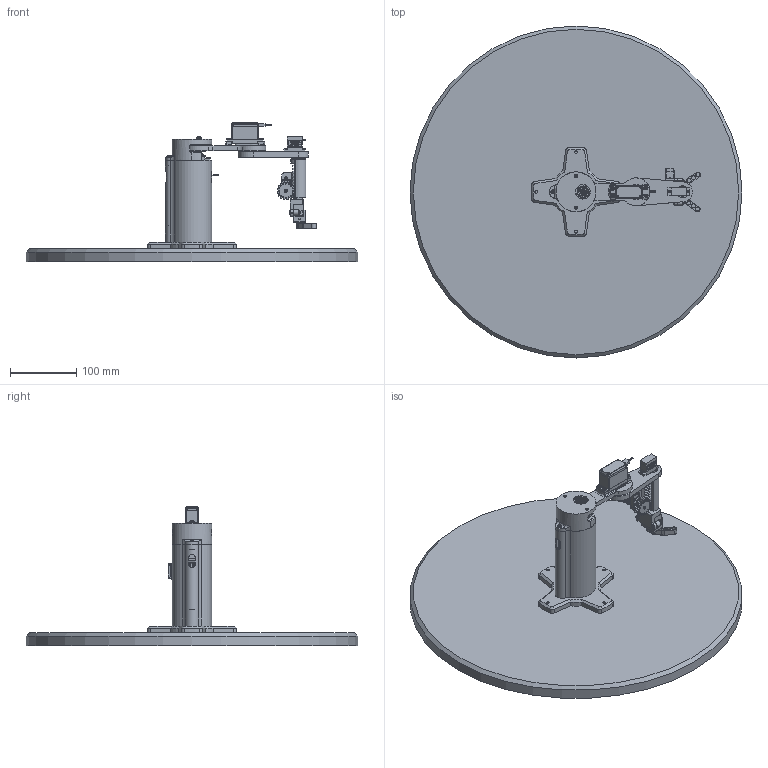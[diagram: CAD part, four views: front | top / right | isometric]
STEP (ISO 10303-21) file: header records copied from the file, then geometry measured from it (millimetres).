
FILE_DESCRIPTION(/* description */ (''),/* implementation_level */ '2;1');
FILE_NAME(/* name */ 'C:\Users\i911900\Desktop\inventor\mini_scara_2x_MG995_pinza\step\Assieme_scara_2x_MG996_pignone.stp',/* time_stamp */ '2022-01-31T17:36:39+01:00',/* author */ ('i911900'),/* organization */ (''),/* preprocessor_version */ 'ST-DEVELOPER v18.1',/* originating_system */ 'Autodesk Inventor 2022',/* authorisation */ '');
FILE_SCHEMA (('AUTOMOTIVE_DESIGN { 1 0 10303 214 3 1 1 }'));
Products named in the file (43): Assieme_scara_2x_MG996_pignone; cilindro_base; link1; SKF Z608-Z; MG_996R; Top; Medio; Base; Eje; Acople circular; link2_mg995; AS 1427 - M3 x 16; chiusura_cilindro_base2; Assieme_rack_pinion_03; pignone; rack; SG90 - Micro Servo 9g - Tower Pro.3_Pea; frame; Vite con testa incassata esalobulare ISO 14579 - M2x10-8.8; Vite con testa incassata esalobulare ISO 14579 - M2x4-8.8; base_appoggio; SKF51104; AS 1427 - M3 x 25; Assieme_pinza_m5; Ingranaggio cilindrico11_MIR; Ingranaggio cilindrico11; SG90 - Micro Servo 9g - Tower Pro.1_Pea; corpo_m5; AS 1420 - 1973 - M3 x 6; corpo_MG90; MG90S_assieme_disco_ldb2; MG90_ldb; scritta_MG90s; disco_MG90s; Screw GB/T 6561 M2 x 6; Screw GB/T 6561 M2 x 10; AS 1427 - M2,5 x 16; AS 1112 - M2,5  Tipo 5; tavolo_robot_scara; AS 1427 - M3 x 12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
Assembly tree (64 placements, depth 3):
  Assieme_scara_2x_MG996_pignone
    MG_996R  x2
      Top
      Medio
      Base
      Eje
      Acople circular
    cilindro_base
    link1
    SKF Z608-Z
    AS 1427 - M3 x 12  x11
    link2_mg995
    AS 1427 - M3 x 16
    chiusura_cilindro_base2
    Assieme_rack_pinion_03
      pignone
      rack
      SG90 - Micro Servo 9g - Tower Pro.3_Pea
      SG90 - Micro Servo 9g - Tower Pro.1_Pea
      AS 1420 - 1973 - M3 x 6
      frame
      Vite con testa incassata esalobulare ISO 14579 - M2x10-8.8  x2
      Vite con testa incassata esalobulare ISO 14579 - M2x4-8.8
    base_appoggio
    SKF51104
    AS 1427 - M3 x 25
    Assieme_pinza_m5
      Ingranaggio cilindrico11_MIR
      Ingranaggio cilindrico11
      SG90 - Micro Servo 9g - Tower Pro.1_Pea
      corpo_m5
      AS 1420 - 1973 - M3 x 6
    corpo_MG90
    MG90S_assieme_disco_ldb2
      MG90_ldb
      scritta_MG90s  x2
    disco_MG90s
    Screw GB/T 6561 M2 x 6  x4
    Screw GB/T 6561 M2 x 10  x2
    AS 1427 - M2,5 x 16  x2
    AS 1112 - M2,5  Tipo 5  x2
    tavolo_robot_scara
    AS 1427 - M3 x 8  x2
    AS 1427 - M2,5 x 8
    AS 1427 - M2,5 x 12
Bounding box: 500 x 500 x 210.8 mm (x, y, z)
Volume: 4261477.9 mm3; surface area: 608466.1 mm2
Topology: 104 solids, 104 shells, 4942 faces, 14893 edges, 10472 vertices
Faces by surface type: plane 2750, cylinder 1103, cone 443, bspline 368, torus 233, sphere 45
Full cylindrical faces by diameter (mm): 0.2 x2, 0.5 x2, 1 x12, 1.167 x3, 1.2 x6, 1.5 x2, 1.509 x6, 1.6 x4, 1.8 x15, 2 x25, 2.013 x2, 2.1 x1, 2.2 x10, 2.224 x4, 2.387 x1, 2.5 x33, 2.693 x15, 2.8 x2, 3 x24, 3.1 x5, 3.5 x6, 3.8 x3, 4 x4, 4.6 x1, 4.7 x2, 4.783 x2, 4.8 x2, 5 x6, 5.3 x2, 5.5 x2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
Entity records: 124501 total; most frequent: CARTESIAN_POINT 39179, ORIENTED_EDGE 18512, DIRECTION 15937, EDGE_CURVE 9256, VERTEX_POINT 6476, AXIS2_PLACEMENT_3D 5418, LINE 5101, VECTOR 5101
